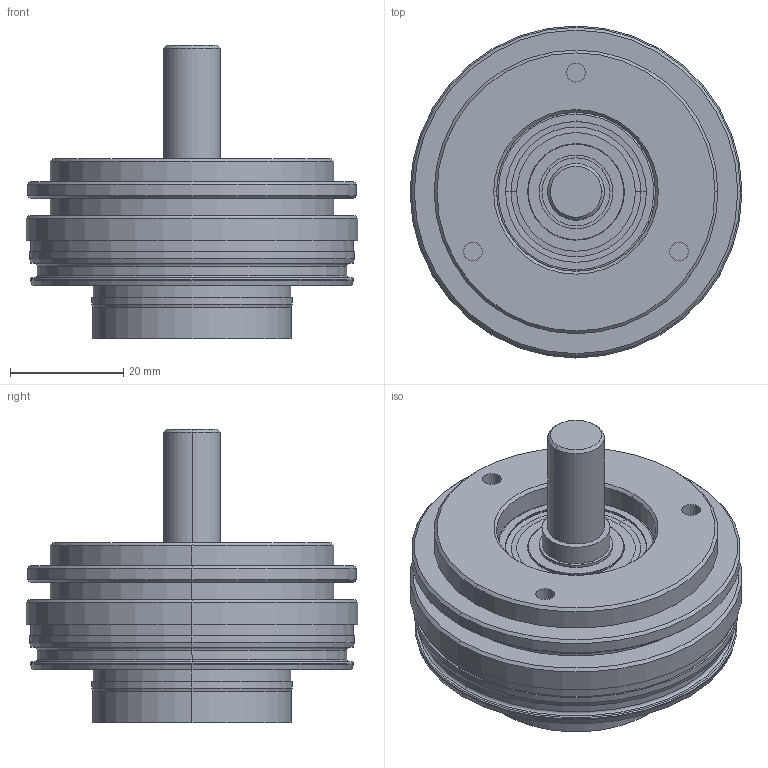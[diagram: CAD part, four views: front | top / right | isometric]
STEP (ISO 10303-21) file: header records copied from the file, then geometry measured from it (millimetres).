
FILE_DESCRIPTION (( 'STEP AP214' ), '1' );
FILE_NAME ('Drawing-UCD-Y100-Q5B-N.STEP', '2015-09-17T12:40:07', ( '' ), ( '' ), 'SwSTEP 2.0', 'SolidWorks 2015', '' );
FILE_SCHEMA (( 'AUTOMOTIVE_DESIGN' ));
Length unit declared in the file: millimetre
Products named in the file (1): Drawing-UCD-Y100-Q5B-N
Bounding box: 58.5 x 58.5 x 51.7 mm (x, y, z)
Surface area: 16635.2 mm2 (no closed solid volume)
Topology: 0 solids, 13 shells, 178 faces, 450 edges, 289 vertices
Faces by surface type: cylinder 60, cone 44, plane 44, torus 16, bspline 14
Entity records: 8027 total; most frequent: CARTESIAN_POINT 1716, DIRECTION 1012, ORIENTED_EDGE 788, EDGE_CURVE 448, AXIS2_PLACEMENT_3D 431, VERTEX_POINT 289, CIRCLE 266, EDGE_LOOP 205
